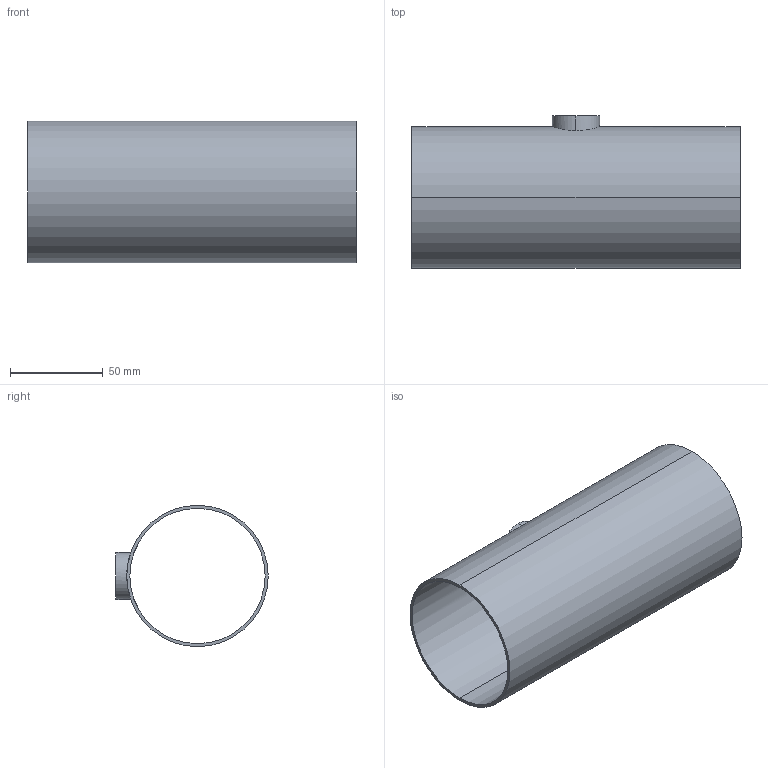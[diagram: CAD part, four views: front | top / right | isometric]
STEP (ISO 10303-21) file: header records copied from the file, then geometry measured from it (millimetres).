
FILE_DESCRIPTION (( 'STEP AP214' ), '1' );
FILE_NAME ('TEG7RS6L3.0x1.0-...STEP', '2016-05-24T10:47:37', ( 'eran' ), ( '' ), 'SwSTEP 2.0', 'SolidWorks 2016', '' );
FILE_SCHEMA (( 'AUTOMOTIVE_DESIGN' ));
Length unit declared in the file: millimetre
Products named in the file (1): TEG7RS6L3.0x1.0-..
Bounding box: 176.8 x 82.1 x 76.2 mm (x, y, z)
Volume: 68525.4 mm3; surface area: 83949.4 mm2
Topology: 1 solids, 1 shells, 11 faces, 24 edges, 16 vertices
Faces by surface type: cylinder 8, plane 3
Entity records: 532 total; most frequent: CARTESIAN_POINT 240, DIRECTION 56, ORIENTED_EDGE 48, AXIS2_PLACEMENT_3D 24, EDGE_CURVE 24, EDGE_LOOP 16, VERTEX_POINT 16, CIRCLE 12
